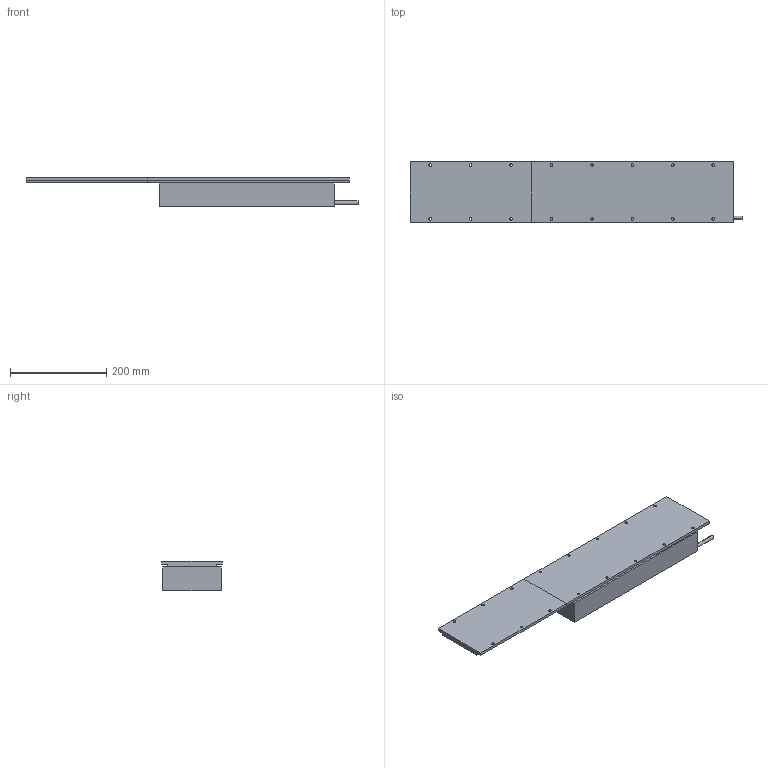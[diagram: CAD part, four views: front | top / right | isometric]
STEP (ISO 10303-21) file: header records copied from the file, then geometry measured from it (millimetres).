
FILE_DESCRIPTION (( 'STEP AP214' ), '1' );
FILE_NAME ('FLM-121-364蚾饜极.STEP', '2022-05-12T08:07:20', ( 'Microsoft' ), ( 'Microsoft' ), 'SwSTEP 2.0', 'SolidWorks 2016', '' );
FILE_SCHEMA (( 'AUTOMOTIVE_DESIGN' ));
Length unit declared in the file: millimetre
Products named in the file (4): FLM-121-364蚾饜极; TLM-125-L420; FLM-121-364; TLM-125-L252
Assembly tree (3 placements, depth 2):
  FLM-121-364蚾饜极
    FLM-121-364
    TLM-125-L420
    TLM-125-L252
Bounding box: 689.81 x 125 x 61.1 mm (x, y, z)
Volume: 2997831.6 mm3; surface area: 328456.6 mm2
Topology: 3 solids, 3 shells, 325 faces, 762 edges, 424 vertices
Faces by surface type: cone 144, cylinder 138, plane 43
Entity records: 9758 total; most frequent: DIRECTION 1700, CARTESIAN_POINT 1445, ORIENTED_EDGE 1380, EDGE_CURVE 690, AXIS2_PLACEMENT_3D 679, VERTEX_POINT 424, EDGE_LOOP 410, CIRCLE 348
